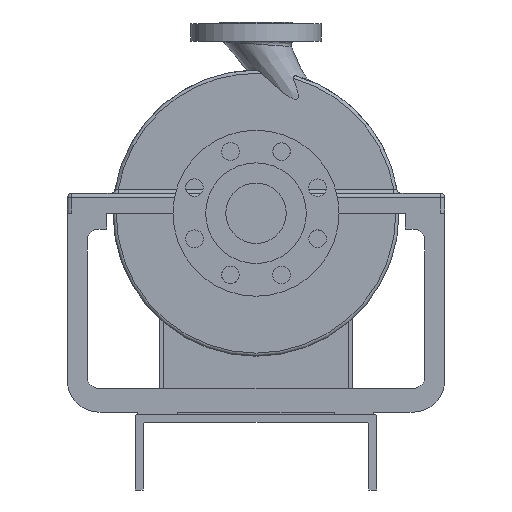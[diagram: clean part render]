
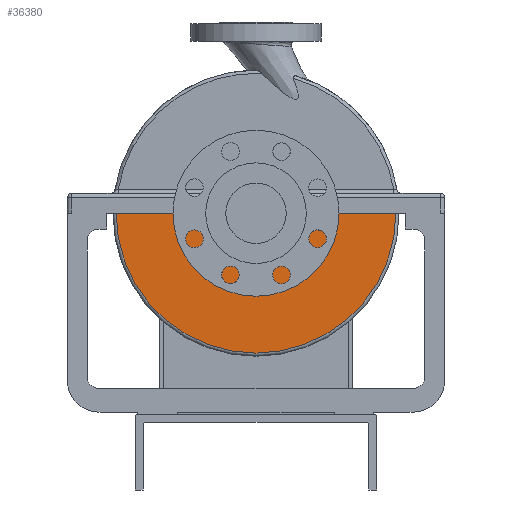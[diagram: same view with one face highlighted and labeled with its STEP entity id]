
A CAD part, front view. The second image highlights one B-rep face of the part: STEP entity #36380.
In plain terms, the highlighted planar face has unit normal (0, -1, 0).
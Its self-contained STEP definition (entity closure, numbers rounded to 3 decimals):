
#849=LINE('',#48223,#3316);
#855=LINE('',#48244,#3322);
#3316=VECTOR('',#40565,1000.);
#3322=VECTOR('',#40581,1000.);
#5856=ORIENTED_EDGE('',*,*,#13616,.T.);
#5857=ORIENTED_EDGE('',*,*,#13550,.F.);
#5858=ORIENTED_EDGE('',*,*,#13617,.T.);
#5859=ORIENTED_EDGE('',*,*,#13560,.F.);
#13550=EDGE_CURVE('',#17432,#17433,#849,.T.);
#13560=EDGE_CURVE('',#17442,#17443,#855,.T.);
#13616=EDGE_CURVE('',#17442,#17433,#19852,.T.);
#13617=EDGE_CURVE('',#17432,#17443,#19853,.F.);
#17432=VERTEX_POINT('',#48222);
#17433=VERTEX_POINT('',#48224);
#17442=VERTEX_POINT('',#48243);
#17443=VERTEX_POINT('',#48245);
#19852=CIRCLE('',#38020,176.5);
#19853=CIRCLE('',#38021,67.071);
#20917=EDGE_LOOP('',(#5856,#5857,#5858,#5859));
#22613=FACE_BOUND('',#20917,.T.);
#24270=PLANE('',#38019);
#36380=ADVANCED_FACE('',(#22613),#24270,.T.);
#38019=AXIS2_PLACEMENT_3D('',#48659,#40694,#40695);
#38020=AXIS2_PLACEMENT_3D('',#48660,#40696,#40697);
#38021=AXIS2_PLACEMENT_3D('',#48661,#40698,#40699);
#40565=DIRECTION('',(1.,0.,0.));
#40581=DIRECTION('',(1.,0.,0.));
#40694=DIRECTION('',(0.,-1.,0.));
#40695=DIRECTION('',(1.,0.,0.));
#40696=DIRECTION('',(0.,-1.,0.));
#40697=DIRECTION('',(1.,0.,0.));
#40698=DIRECTION('',(0.,-1.,0.));
#40699=DIRECTION('',(1.,0.,0.));
#48222=CARTESIAN_POINT('',(67.071,-28.,0.));
#48223=CARTESIAN_POINT('',(0.,-28.,0.));
#48224=CARTESIAN_POINT('',(176.5,-28.,0.));
#48243=CARTESIAN_POINT('',(-176.5,-28.,0.));
#48244=CARTESIAN_POINT('',(0.,-28.,0.));
#48245=CARTESIAN_POINT('',(-67.071,-28.,0.));
#48659=CARTESIAN_POINT('',(0.,-28.,65.));
#48660=CARTESIAN_POINT('',(0.,-28.,0.));
#48661=CARTESIAN_POINT('',(0.,-28.,0.));
